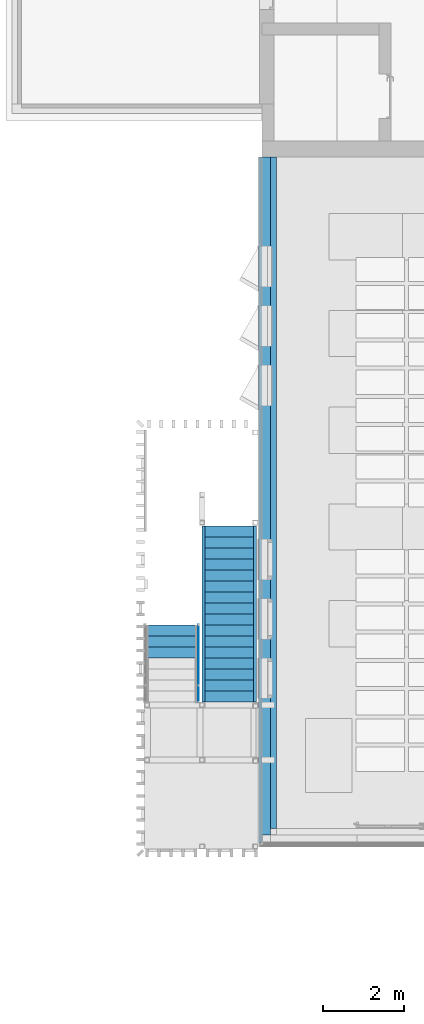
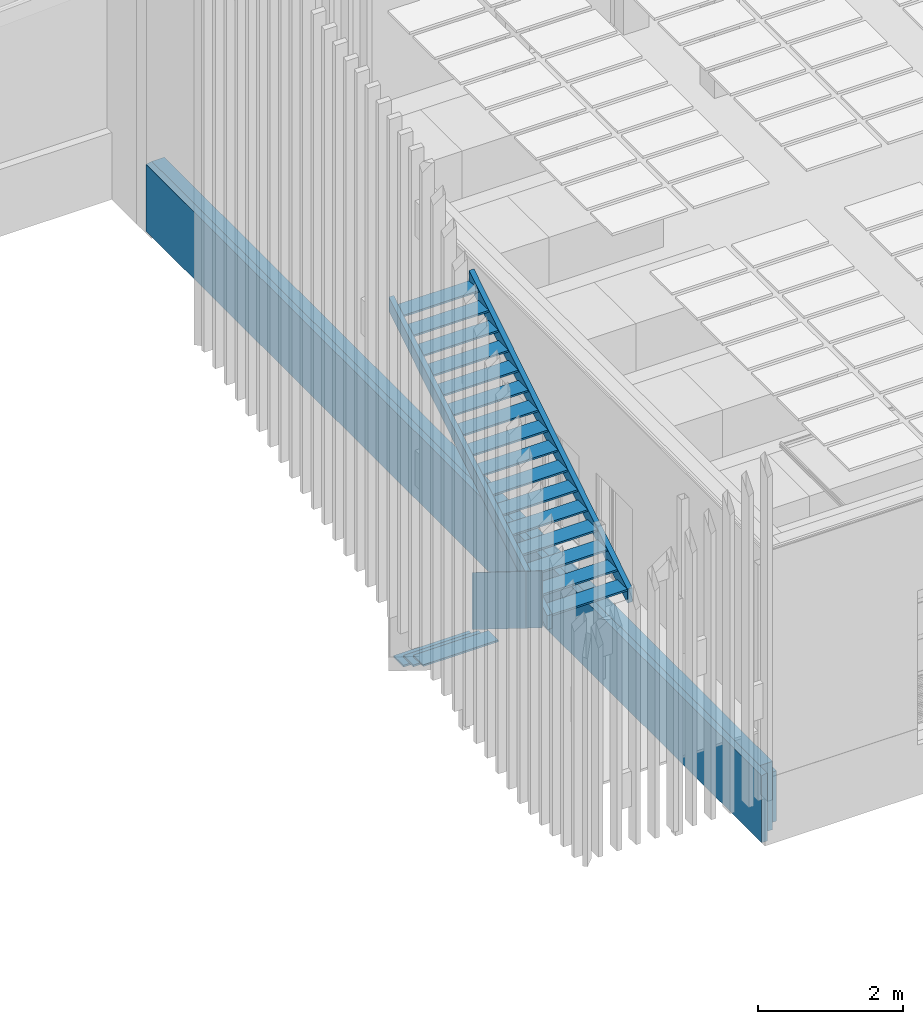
# One storey, part 182 of 301: 26 building element parts, 4 elements without a shape of their own.
"""IFC2X3 building model written with IfcOpenShell, lengths in millimetres."""

from ifc_helpers import new_model, entity, si_unit, converted_unit, derived_unit, money_unit, direction, frame, origin_with_axes, place, context, subcontext, project, spatial, faceted_brep, material, type_object, element, aggregate, save


model = new_model("IFC2X3")

# Units and contexts
model_context = context("Model", 3, precision=0.01, world=origin_with_axes(), true_north=direction((0.0, 1.0)))
body_context = subcontext(model_context, "Body", "Model", "MODEL_VIEW")
ifc_project = project(units=[si_unit("LENGTHUNIT", "METRE", prefix="MILLI"), si_unit("AREAUNIT", "SQUARE_METRE"), si_unit("VOLUMEUNIT", "CUBIC_METRE"), converted_unit("PLANEANGLEUNIT", "DEGREE", entity("IfcPlaneAngleMeasure", 0.0174532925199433), si_unit("PLANEANGLEUNIT", "RADIAN"), dimensions=[0, 0, 0, 0, 0, 0, 0]), money_unit("EUR"), converted_unit("TIMEUNIT", "Year", entity("IfcTimeMeasure", 31557600.0), si_unit("TIMEUNIT", "SECOND"), dimensions=[0, 0, 1, 0, 0, 0, 0]), si_unit("MASSUNIT", "GRAM", prefix="KILO"), si_unit("THERMODYNAMICTEMPERATUREUNIT", "DEGREE_CELSIUS"), si_unit("LUMINOUSINTENSITYUNIT", "LUMEN"), si_unit("ENERGYUNIT", "JOULE", prefix="MEGA"), derived_unit("THERMALCONDUCTANCEUNIT", [(si_unit("POWERUNIT", "WATT"), 1), (si_unit("LENGTHUNIT", "METRE"), -1), (si_unit("THERMODYNAMICTEMPERATUREUNIT", "KELVIN"), -1)]), derived_unit("SPECIFICHEATCAPACITYUNIT", [(si_unit("ENERGYUNIT", "JOULE"), 1), (si_unit("MASSUNIT", "GRAM", prefix="KILO"), -1), (si_unit("THERMODYNAMICTEMPERATUREUNIT", "KELVIN"), -1)]), derived_unit("MASSDENSITYUNIT", [(si_unit("MASSUNIT", "GRAM", prefix="KILO"), 1), (si_unit("VOLUMEUNIT", "CUBIC_METRE"), -1)])], contexts=[model_context])

# Site, building, storey
site_placement = place(None, frame((0.0, 0.0, 8650.0), z_axis=(0.0, 0.0, 1.0), x_axis=(1.0, 0.0, 0.0)))
site = spatial("IfcSite", under=ifc_project, at=site_placement, Name="43301:001:0844", CompositionType="ELEMENT")
building_placement = place(site_placement, origin_with_axes())
building = spatial("IfcBuilding", under=site, at=building_placement, Name="Kuressaare Ametikooli tuulikute mehaanikute õppekorpus", CompositionType="ELEMENT")
storey_placement = place(building_placement, origin_with_axes())
storey = spatial("IfcBuildingStorey", under=building, at=storey_placement, Name="1.korrus", CompositionType="ELEMENT", Elevation=0.0)

# Wall, building element parts
wall_type = type_object("IfcWallType", Name="TUUL_vundament 440 x 1150", PredefinedType="NOTDEFINED")
wall_placement = place(storey_placement, frame((88168.22664518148, 8973.838490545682, 0.0), z_axis=(0.0, 0.0, 1.0), x_axis=(0.0, 1.0, 0.0)))
wall = element("IfcWall", 1, at=wall_placement, inside=storey, type_object=wall_type, Name="Sokkel")
ifc_material_1 = material(Name="Betoon - C30/37")
building_element_part_1_placement = place(wall_placement, origin_with_axes())
building_element_part_1 = element("IfcBuildingElementPart", 2, at=building_element_part_1_placement, material=ifc_material_1, Name="Betoon - C30/37", context=body_context, shape_type="Brep", body=[
    faceted_brep([(-200.0000000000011, 290.0000000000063, 279.9999925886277), (-199.9999999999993, 200.0000000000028, 300.0000000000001), (16809.23043340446, 200.0000000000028, 300.0000000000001), (16809.23043340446, 290.0000000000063, 280.0), (-199.9999999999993, 290.0000000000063, -850.0000000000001), (-199.9999999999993, 200.0000000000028, -850.0000000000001), (16809.23043340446, 200.0000000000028, -850.0000000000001), (16809.23043340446, 290.0000000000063, -850.0000000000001)], [[[0, 1, 2, 3]], [[1, 0, 4, 5]], [[1, 5, 6, 2]], [[7, 3, 2, 6]], [[0, 3, 7, 4]], [[5, 4, 7, 6]]]),
])
ifc_material_2 = material(Name="Soojustus - Vahtpolüstüreen")
building_element_part_2_placement = place(wall_placement, origin_with_axes())
building_element_part_2 = element("IfcBuildingElementPart", 3, at=building_element_part_2_placement, material=ifc_material_2, Name="Soojustus - Vahtpolüstüreen", context=body_context, shape_type="Brep", body=[
    faceted_brep([(-4.470352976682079e-06, 200.000010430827, 300.0000000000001), (-4.470352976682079e-06, 4.47035120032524e-06, 300.0000000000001), (16809.23043340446, 4.47035120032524e-06, 300.0000000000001), (16809.23043340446, 200.000010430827, 300.0000000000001), (-4.470352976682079e-06, 4.470365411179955e-06, 0.0), (-4.470352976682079e-06, 200.000010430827, -850.0000000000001), (-4.470352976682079e-06, 4.47035120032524e-06, -850.0000000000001), (16809.23043340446, 4.47035120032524e-06, 8.195646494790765e-06), (16809.23043340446, 4.47035120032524e-06, -850.0000000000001), (16809.23043340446, 200.000010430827, -850.0000000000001)], [[[0, 1, 2, 3]], [[4, 1, 0, 5, 6]], [[1, 4, 7, 2]], [[8, 9, 3, 2, 7]], [[0, 3, 9, 5]], [[6, 5, 9, 8]], [[4, 6, 8, 7]]]),
])
building_element_part_3_placement = place(wall_placement, origin_with_axes())
building_element_part_3 = element("IfcBuildingElementPart", 4, at=building_element_part_3_placement, material=ifc_material_1, Name="Betoon - C30/37", context=body_context, shape_type="Brep", body=[
    faceted_brep([(150.0000000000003, 0.0, 0.0), (150.0000000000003, -150.0000000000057, 0.0), (16809.23043340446, -150.0000000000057, 0.0), (16809.23043340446, 0.0, 0.0), (150.0000000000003, -150.0000000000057, -850.0000000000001), (150.0000000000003, 0.0, -850.0000000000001), (16809.23043340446, -150.0000000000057, -850.0000000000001), (16809.23043340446, 0.0, -850.0000000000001)], [[[0, 1, 2, 3]], [[4, 1, 0, 5]], [[1, 4, 6, 2]], [[7, 3, 2, 6]], [[5, 0, 3, 7]], [[4, 5, 7, 6]]]),
])
aggregate(wall, [building_element_part_1, building_element_part_2, building_element_part_3])

# Stair, building element parts
stair_1_placement = place(storey_placement, frame((87831.2266451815, 12263.83806945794, 1183.673538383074), z_axis=(0.0, 0.0, 1.0), x_axis=(-1.0, 0.0, 0.0)))
stair_1 = element("IfcStair", 5, at=stair_1_placement, inside=storey, Name="Trepp3", ShapeType="NOTDEFINED")
ifc_material_3 = material(Name="Metall - Teras - Konstruktsioon")
building_element_part_4_placement = place(stair_1_placement, origin_with_axes())
building_element_part_4 = element("IfcBuildingElementPart", 6, at=building_element_part_4_placement, material=ifc_material_3, Name="Metall - Teras - Konstruktsioon", context=body_context, shape_type="Brep", body=[
    faceted_brep([(80.0000000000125, -4375.040000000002, 2660.362296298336), (80.0000000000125, 0.0, -65.28476252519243), (80.0000000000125, 0.0, 170.3529411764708), (80.0000000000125, -4375.040000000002, 2895.999999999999), (0.0, -4375.040000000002, 2660.362296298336), (0.0, 0.0, -65.28476252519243), (0.0, 0.0, 170.3529411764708), (0.0, -4375.040000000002, 2895.999999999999)], [[[0, 1, 2, 3]], [[4, 5, 1, 0]], [[2, 1, 5, 6]], [[3, 2, 6, 7]], [[7, 4, 0, 3]], [[7, 6, 5, 4]]]),
])
building_element_part_5_placement = place(stair_1_placement, origin_with_axes())
building_element_part_5 = element("IfcBuildingElementPart", 7, at=building_element_part_5_placement, material=ifc_material_3, Name="Metall - Teras - Konstruktsioon", context=body_context, shape_type="Brep", body=[
    faceted_brep([(1360.000000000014, -4375.040000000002, 2660.362296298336), (1360.000000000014, 0.0, -65.28476252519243), (1360.000000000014, 0.0, 170.3529411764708), (1360.000000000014, -4375.040000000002, 2895.999999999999), (1280.000000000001, -4375.040000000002, 2660.362296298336), (1280.000000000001, 0.0, -65.28476252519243), (1280.000000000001, 0.0, 170.3529411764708), (1280.000000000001, -4375.040000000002, 2895.999999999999)], [[[0, 1, 2, 3]], [[4, 5, 1, 0]], [[2, 1, 5, 6]], [[3, 2, 6, 7]], [[7, 4, 0, 3]], [[7, 6, 5, 4]]]),
])
ifc_material_4 = material(Name="Steel")
building_element_part_6_placement = place(stair_1_placement, origin_with_axes())
building_element_part_6 = element("IfcBuildingElementPart", 8, at=building_element_part_6_placement, material=ifc_material_4, Name="Steel", context=body_context, shape_type="Brep", body=[
    faceted_brep([(80.0000000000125, -273.4400000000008, 310.7058823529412), (80.0000000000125, -273.4400000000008, 340.7058823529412), (1280.000000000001, -273.4400000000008, 340.7058823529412), (1280.000000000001, -273.4400000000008, 310.7058823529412), (80.0000000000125, -546.8799999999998, 310.7058823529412), (80.0000000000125, -546.8799999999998, 340.7058823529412), (1280.000000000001, -546.8799999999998, 340.7058823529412), (1280.000000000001, -546.8799999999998, 310.7058823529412)], [[[0, 1, 2, 3]], [[4, 5, 1, 0]], [[1, 5, 6, 2]], [[3, 2, 6, 7]], [[0, 3, 7, 4]], [[7, 6, 5, 4]]]),
])
building_element_part_7_placement = place(stair_1_placement, origin_with_axes())
building_element_part_7 = element("IfcBuildingElementPart", 9, at=building_element_part_7_placement, material=ifc_material_4, Name="Steel", context=body_context, shape_type="Brep", body=[
    faceted_brep([(80.0000000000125, 0.0, 140.3529411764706), (80.0000000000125, 0.0, 170.3529411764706), (1280.000000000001, 0.0, 170.3529411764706), (1280.000000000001, 0.0, 140.3529411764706), (80.0000000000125, -273.4400000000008, 140.3529411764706), (80.0000000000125, -273.4400000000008, 170.3529411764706), (1280.000000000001, -273.4400000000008, 170.3529411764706), (1280.000000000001, -273.4400000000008, 140.3529411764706)], [[[0, 1, 2, 3]], [[4, 5, 1, 0]], [[1, 5, 6, 2]], [[3, 2, 6, 7]], [[0, 3, 7, 4]], [[7, 6, 5, 4]]]),
])
building_element_part_8_placement = place(stair_1_placement, origin_with_axes())
building_element_part_8 = element("IfcBuildingElementPart", 10, at=building_element_part_8_placement, material=ifc_material_4, Name="Steel", context=body_context, shape_type="Brep", body=[
    faceted_brep([(80.0000000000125, -820.3200000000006, 651.4117647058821), (80.0000000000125, -820.3200000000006, 681.4117647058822), (1280.000000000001, -820.3200000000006, 681.4117647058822), (1280.000000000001, -820.3200000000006, 651.4117647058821), (80.0000000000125, -1093.760000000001, 651.4117647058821), (80.0000000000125, -1093.760000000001, 681.4117647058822), (1280.000000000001, -1093.760000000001, 681.4117647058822), (1280.000000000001, -1093.760000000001, 651.4117647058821)], [[[0, 1, 2, 3]], [[4, 5, 1, 0]], [[1, 5, 6, 2]], [[3, 2, 6, 7]], [[0, 3, 7, 4]], [[7, 6, 5, 4]]]),
])
building_element_part_9_placement = place(stair_1_placement, origin_with_axes())
building_element_part_9 = element("IfcBuildingElementPart", 11, at=building_element_part_9_placement, material=ifc_material_4, Name="Steel", context=body_context, shape_type="Brep", body=[
    faceted_brep([(80.0000000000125, -1093.76, 821.7647058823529), (80.0000000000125, -1093.76, 851.7647058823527), (1280.000000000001, -1093.76, 851.7647058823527), (1280.000000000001, -1093.76, 821.7647058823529), (80.0000000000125, -1367.200000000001, 821.7647058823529), (80.0000000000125, -1367.200000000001, 851.7647058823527), (1280.000000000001, -1367.200000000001, 851.7647058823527), (1280.000000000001, -1367.200000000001, 821.7647058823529)], [[[0, 1, 2, 3]], [[4, 5, 1, 0]], [[1, 5, 6, 2]], [[3, 2, 6, 7]], [[0, 3, 7, 4]], [[7, 6, 5, 4]]]),
])
building_element_part_10_placement = place(stair_1_placement, origin_with_axes())
building_element_part_10 = element("IfcBuildingElementPart", 12, at=building_element_part_10_placement, material=ifc_material_4, Name="Steel", context=body_context, shape_type="Brep", body=[
    faceted_brep([(80.0000000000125, -546.8799999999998, 481.0588235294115), (80.0000000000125, -546.8799999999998, 511.0588235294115), (1280.000000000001, -546.8799999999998, 511.0588235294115), (1280.000000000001, -546.8799999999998, 481.0588235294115), (80.0000000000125, -820.3200000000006, 481.0588235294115), (80.0000000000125, -820.3200000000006, 511.0588235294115), (1280.000000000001, -820.3200000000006, 511.0588235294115), (1280.000000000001, -820.3200000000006, 481.0588235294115)], [[[0, 1, 2, 3]], [[4, 5, 1, 0]], [[1, 5, 6, 2]], [[3, 2, 6, 7]], [[0, 3, 7, 4]], [[7, 6, 5, 4]]]),
])
building_element_part_11_placement = place(stair_1_placement, origin_with_axes())
building_element_part_11 = element("IfcBuildingElementPart", 13, at=building_element_part_11_placement, material=ifc_material_4, Name="Steel", context=body_context, shape_type="Brep", body=[
    faceted_brep([(80.0000000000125, -1367.200000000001, 992.1176470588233), (80.0000000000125, -1367.200000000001, 1022.117647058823), (1280.000000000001, -1367.200000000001, 1022.117647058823), (1280.000000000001, -1367.200000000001, 992.1176470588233), (80.0000000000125, -1640.640000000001, 992.1176470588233), (80.0000000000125, -1640.640000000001, 1022.117647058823), (1280.000000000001, -1640.640000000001, 1022.117647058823), (1280.000000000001, -1640.640000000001, 992.1176470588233)], [[[0, 1, 2, 3]], [[4, 5, 1, 0]], [[1, 5, 6, 2]], [[3, 2, 6, 7]], [[0, 3, 7, 4]], [[7, 6, 5, 4]]]),
])
building_element_part_12_placement = place(stair_1_placement, origin_with_axes())
building_element_part_12 = element("IfcBuildingElementPart", 14, at=building_element_part_12_placement, material=ifc_material_4, Name="Steel", context=body_context, shape_type="Brep", body=[
    faceted_brep([(80.0000000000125, -1640.639999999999, 1162.470588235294), (80.0000000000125, -1640.639999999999, 1192.470588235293), (1280.000000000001, -1640.639999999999, 1192.470588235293), (1280.000000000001, -1640.639999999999, 1162.470588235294), (80.0000000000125, -1914.08, 1162.470588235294), (80.0000000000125, -1914.08, 1192.470588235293), (1280.000000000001, -1914.08, 1192.470588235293), (1280.000000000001, -1914.08, 1162.470588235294)], [[[0, 1, 2, 3]], [[4, 5, 1, 0]], [[1, 5, 6, 2]], [[3, 2, 6, 7]], [[0, 3, 7, 4]], [[7, 6, 5, 4]]]),
])
building_element_part_13_placement = place(stair_1_placement, origin_with_axes())
building_element_part_13 = element("IfcBuildingElementPart", 15, at=building_element_part_13_placement, material=ifc_material_4, Name="Steel", context=body_context, shape_type="Brep", body=[
    faceted_brep([(80.0000000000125, -2187.519999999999, 1503.176470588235), (80.0000000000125, -2187.519999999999, 1533.176470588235), (1280.000000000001, -2187.519999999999, 1533.176470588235), (1280.000000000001, -2187.519999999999, 1503.176470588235), (80.0000000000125, -2460.96, 1503.176470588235), (80.0000000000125, -2460.96, 1533.176470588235), (1280.000000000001, -2460.96, 1533.176470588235), (1280.000000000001, -2460.96, 1503.176470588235)], [[[0, 1, 2, 3]], [[4, 5, 1, 0]], [[1, 5, 6, 2]], [[3, 2, 6, 7]], [[0, 3, 7, 4]], [[7, 6, 5, 4]]]),
])
building_element_part_14_placement = place(stair_1_placement, origin_with_axes())
building_element_part_14 = element("IfcBuildingElementPart", 16, at=building_element_part_14_placement, material=ifc_material_4, Name="Steel", context=body_context, shape_type="Brep", body=[
    faceted_brep([(80.0000000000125, -2460.96, 1673.529411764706), (80.0000000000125, -2460.96, 1703.529411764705), (1280.000000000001, -2460.96, 1703.529411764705), (1280.000000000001, -2460.96, 1673.529411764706), (80.0000000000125, -2734.400000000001, 1673.529411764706), (80.0000000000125, -2734.400000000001, 1703.529411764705), (1280.000000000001, -2734.400000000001, 1703.529411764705), (1280.000000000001, -2734.400000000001, 1673.529411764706)], [[[0, 1, 2, 3]], [[4, 5, 1, 0]], [[1, 5, 6, 2]], [[3, 2, 6, 7]], [[0, 3, 7, 4]], [[7, 6, 5, 4]]]),
])
building_element_part_15_placement = place(stair_1_placement, origin_with_axes())
building_element_part_15 = element("IfcBuildingElementPart", 17, at=building_element_part_15_placement, material=ifc_material_4, Name="Steel", context=body_context, shape_type="Brep", body=[
    faceted_brep([(80.0000000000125, -2734.400000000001, 1843.882352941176), (80.0000000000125, -2734.400000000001, 1873.882352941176), (1280.000000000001, -2734.400000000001, 1873.882352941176), (1280.000000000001, -2734.400000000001, 1843.882352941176), (80.0000000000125, -3007.840000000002, 1843.882352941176), (80.0000000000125, -3007.840000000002, 1873.882352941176), (1280.000000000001, -3007.840000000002, 1873.882352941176), (1280.000000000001, -3007.840000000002, 1843.882352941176)], [[[0, 1, 2, 3]], [[4, 5, 1, 0]], [[1, 5, 6, 2]], [[3, 2, 6, 7]], [[0, 3, 7, 4]], [[7, 6, 5, 4]]]),
])
building_element_part_16_placement = place(stair_1_placement, origin_with_axes())
building_element_part_16 = element("IfcBuildingElementPart", 18, at=building_element_part_16_placement, material=ifc_material_4, Name="Steel", context=body_context, shape_type="Brep", body=[
    faceted_brep([(80.0000000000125, -1914.08, 1332.823529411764), (80.0000000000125, -1914.08, 1362.823529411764), (1280.000000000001, -1914.08, 1362.823529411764), (1280.000000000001, -1914.08, 1332.823529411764), (80.0000000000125, -2187.519999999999, 1332.823529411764), (80.0000000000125, -2187.519999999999, 1362.823529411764), (1280.000000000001, -2187.519999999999, 1362.823529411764), (1280.000000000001, -2187.519999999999, 1332.823529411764)], [[[0, 1, 2, 3]], [[4, 5, 1, 0]], [[1, 5, 6, 2]], [[3, 2, 6, 7]], [[0, 3, 7, 4]], [[7, 6, 5, 4]]]),
])
building_element_part_17_placement = place(stair_1_placement, origin_with_axes())
building_element_part_17 = element("IfcBuildingElementPart", 19, at=building_element_part_17_placement, material=ifc_material_4, Name="Steel", context=body_context, shape_type="Brep", body=[
    faceted_brep([(80.0000000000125, -3007.84, 2014.235294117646), (80.0000000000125, -3007.84, 2044.235294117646), (1280.000000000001, -3007.84, 2044.235294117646), (1280.000000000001, -3007.84, 2014.235294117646), (80.0000000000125, -3281.279999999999, 2014.235294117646), (80.0000000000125, -3281.279999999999, 2044.235294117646), (1280.000000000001, -3281.279999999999, 2044.235294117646), (1280.000000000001, -3281.279999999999, 2014.235294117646)], [[[0, 1, 2, 3]], [[4, 5, 1, 0]], [[1, 5, 6, 2]], [[3, 2, 6, 7]], [[0, 3, 7, 4]], [[7, 6, 5, 4]]]),
])
building_element_part_18_placement = place(stair_1_placement, origin_with_axes())
building_element_part_18 = element("IfcBuildingElementPart", 20, at=building_element_part_18_placement, material=ifc_material_4, Name="Steel", context=body_context, shape_type="Brep", body=[
    faceted_brep([(80.0000000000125, -3281.280000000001, 2184.588235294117), (80.0000000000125, -3281.280000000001, 2214.588235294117), (1280.000000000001, -3281.280000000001, 2214.588235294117), (1280.000000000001, -3281.280000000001, 2184.588235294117), (80.0000000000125, -3554.72, 2184.588235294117), (80.0000000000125, -3554.72, 2214.588235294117), (1280.000000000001, -3554.72, 2214.588235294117), (1280.000000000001, -3554.72, 2184.588235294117)], [[[0, 1, 2, 3]], [[4, 5, 1, 0]], [[1, 5, 6, 2]], [[3, 2, 6, 7]], [[0, 3, 7, 4]], [[7, 6, 5, 4]]]),
])
building_element_part_19_placement = place(stair_1_placement, origin_with_axes())
building_element_part_19 = element("IfcBuildingElementPart", 21, at=building_element_part_19_placement, material=ifc_material_4, Name="Steel", context=body_context, shape_type="Brep", body=[
    faceted_brep([(80.0000000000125, -3554.72, 2354.941176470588), (80.0000000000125, -3554.72, 2384.941176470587), (1280.000000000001, -3554.72, 2384.941176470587), (1280.000000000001, -3554.72, 2354.941176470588), (80.0000000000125, -3828.16, 2354.941176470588), (80.0000000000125, -3828.16, 2384.941176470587), (1280.000000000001, -3828.16, 2384.941176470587), (1280.000000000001, -3828.16, 2354.941176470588)], [[[0, 1, 2, 3]], [[4, 5, 1, 0]], [[1, 5, 6, 2]], [[3, 2, 6, 7]], [[0, 3, 7, 4]], [[7, 6, 5, 4]]]),
])
building_element_part_20_placement = place(stair_1_placement, origin_with_axes())
building_element_part_20 = element("IfcBuildingElementPart", 22, at=building_element_part_20_placement, material=ifc_material_4, Name="Steel", context=body_context, shape_type="Brep", body=[
    faceted_brep([(80.0000000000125, -3828.16, 2525.294117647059), (80.0000000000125, -3828.16, 2555.294117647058), (1280.000000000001, -3828.16, 2555.294117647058), (1280.000000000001, -3828.16, 2525.294117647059), (80.0000000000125, -4101.600000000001, 2525.294117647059), (80.0000000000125, -4101.600000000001, 2555.294117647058), (1280.000000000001, -4101.600000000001, 2555.294117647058), (1280.000000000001, -4101.600000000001, 2525.294117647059)], [[[0, 1, 2, 3]], [[4, 5, 1, 0]], [[1, 5, 6, 2]], [[3, 2, 6, 7]], [[0, 3, 7, 4]], [[7, 6, 5, 4]]]),
])
building_element_part_21_placement = place(stair_1_placement, origin_with_axes())
building_element_part_21 = element("IfcBuildingElementPart", 23, at=building_element_part_21_placement, material=ifc_material_4, Name="Steel", context=body_context, shape_type="Brep", body=[
    faceted_brep([(80.0000000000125, -4101.600000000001, 2695.647058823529), (80.0000000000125, -4101.600000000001, 2725.647058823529), (1280.000000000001, -4101.600000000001, 2725.647058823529), (1280.000000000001, -4101.600000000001, 2695.647058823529), (80.0000000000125, -4375.040000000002, 2695.647058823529), (80.0000000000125, -4375.040000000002, 2725.647058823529), (1280.000000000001, -4375.040000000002, 2725.647058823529), (1280.000000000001, -4375.040000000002, 2695.647058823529)], [[[0, 1, 2, 3]], [[4, 5, 1, 0]], [[1, 5, 6, 2]], [[3, 2, 6, 7]], [[0, 3, 7, 4]], [[7, 6, 5, 4]]]),
])
aggregate(stair_1, [building_element_part_4, building_element_part_5, building_element_part_6, building_element_part_7, building_element_part_8, building_element_part_9, building_element_part_10, building_element_part_11, building_element_part_12, building_element_part_13, building_element_part_14, building_element_part_15, building_element_part_16, building_element_part_17, building_element_part_18, building_element_part_19, building_element_part_20, building_element_part_21])

stair_2_placement = place(storey_placement, frame((86406.22662386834, 14177.91808387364, -175.0), z_axis=(0.0, 0.0, 1.0), x_axis=(-1.0, 0.0, 0.0)))
stair_2 = element("IfcStair", 24, at=stair_2_placement, inside=storey, Name="Trepp3", ShapeType="NOTDEFINED")
building_element_part_22_placement = place(stair_2_placement, origin_with_axes())
building_element_part_22 = element("IfcBuildingElementPart", 25, at=building_element_part_22_placement, material=ifc_material_4, Name="Steel", context=body_context, shape_type="Brep", body=[
    faceted_brep([(1280.000000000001, 0.0, 140.0), (1280.000000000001, 0.0, 170.0), (80.0000000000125, 0.0, 170.0), (80.0000000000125, 0.0, 140.0), (1280.000000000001, 273.4400000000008, 140.0), (1280.000000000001, 273.4400000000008, 170.0), (80.0000000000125, 273.4400000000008, 170.0), (80.0000000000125, 273.4400000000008, 140.0)], [[[0, 1, 2, 3]], [[4, 5, 1, 0]], [[1, 5, 6, 2]], [[3, 2, 6, 7]], [[0, 3, 7, 4]], [[7, 6, 5, 4]]]),
])
building_element_part_23_placement = place(stair_2_placement, origin_with_axes())
building_element_part_23 = element("IfcBuildingElementPart", 26, at=building_element_part_23_placement, material=ifc_material_4, Name="Steel", context=body_context, shape_type="Brep", body=[
    faceted_brep([(1280.000000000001, 273.4400000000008, 310.0000000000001), (1280.000000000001, 273.4400000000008, 340.0), (80.0000000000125, 273.4400000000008, 340.0), (80.0000000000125, 273.4400000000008, 310.0000000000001), (1280.000000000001, 546.8800000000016, 310.0000000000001), (1280.000000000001, 546.8800000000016, 340.0), (80.0000000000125, 546.8800000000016, 340.0), (80.0000000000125, 546.8800000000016, 310.0000000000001)], [[[0, 1, 2, 3]], [[4, 5, 1, 0]], [[1, 5, 6, 2]], [[3, 2, 6, 7]], [[0, 3, 7, 4]], [[7, 6, 5, 4]]]),
])
building_element_part_24_placement = place(stair_2_placement, origin_with_axes())
building_element_part_24 = element("IfcBuildingElementPart", 27, at=building_element_part_24_placement, material=ifc_material_4, Name="Steel", context=body_context, shape_type="Brep", body=[
    faceted_brep([(1280.000000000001, 546.8799999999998, 480.0000000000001), (1280.000000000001, 546.8799999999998, 510.0), (80.0000000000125, 546.8799999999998, 510.0), (80.0000000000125, 546.8799999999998, 480.0000000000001), (1280.000000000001, 820.3200000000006, 480.0000000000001), (1280.000000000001, 820.3200000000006, 510.0), (80.0000000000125, 820.3200000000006, 510.0), (80.0000000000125, 820.3200000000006, 480.0000000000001)], [[[0, 1, 2, 3]], [[4, 5, 1, 0]], [[1, 5, 6, 2]], [[3, 2, 6, 7]], [[0, 3, 7, 4]], [[7, 6, 5, 4]]]),
])
aggregate(stair_2, [building_element_part_22, building_element_part_23, building_element_part_24])

# Railing, building element parts
railing_type = type_object("IfcRailingType", Name="Railing Type", PredefinedType="NOTDEFINED")
railing_placement = place(storey_placement, frame((86406.22662386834, 14177.91808387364, -4.999999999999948), z_axis=(0.0, 0.0, 1.0), x_axis=(1.0, 0.0, 0.0)))
railing = element("IfcRailing", 28, at=railing_placement, inside=storey, type_object=railing_type, Name="Piire", PredefinedType="NOTDEFINED")
ifc_material_5 = material(Name="Klaas")
building_element_part_25_placement = place(railing_placement, origin_with_axes())
building_element_part_25 = element("IfcBuildingElementPart", 29, at=building_element_part_25_placement, material=ifc_material_5, Name="Klaas", context=body_context, shape_type="Brep", body=[
    faceted_brep([(-9.999999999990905, -1500.0, 932.5629022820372), (-9.999999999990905, 0.0, 0.0), (-9.999999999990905, 0.0, 959.9999999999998), (-9.999999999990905, -1500.0, 1892.562902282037), (-30.00000000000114, 0.0, 0.0), (-30.00000000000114, -1500.0, 932.5629022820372), (-30.00000000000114, 0.0, 959.9999999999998), (-30.00000000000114, -1500.0, 1892.562902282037)], [[[0, 1, 2, 3]], [[4, 1, 0, 5]], [[6, 2, 1, 4]], [[3, 2, 6, 7]], [[0, 3, 7, 5]], [[6, 4, 5, 7]]]),
])
building_element_part_26_placement = place(railing_placement, origin_with_axes())
building_element_part_26 = element("IfcBuildingElementPart", 30, at=building_element_part_26_placement, material=ifc_material_5, Name="Klaas", context=body_context, shape_type="Brep", body=[
    faceted_brep([(-9.999999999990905, -1914.08, 1190.000000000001), (-9.999999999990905, -1500.0, 932.5629022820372), (-9.999999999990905, -1500.0, 1892.562902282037), (-9.999999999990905, -1914.08, 2150.000000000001), (-30.00000000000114, -1500.0, 932.5629022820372), (-30.00000000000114, -1914.08, 1190.000000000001), (-30.00000000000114, -1500.0, 1892.562902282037), (-30.00000000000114, -1914.08, 2150.000000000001)], [[[0, 1, 2, 3]], [[4, 1, 0, 5]], [[6, 2, 1, 4]], [[3, 2, 6, 7]], [[0, 3, 7, 5]], [[6, 4, 5, 7]]]),
])
aggregate(railing, [building_element_part_25, building_element_part_26])

save(model, "model.ifc")
